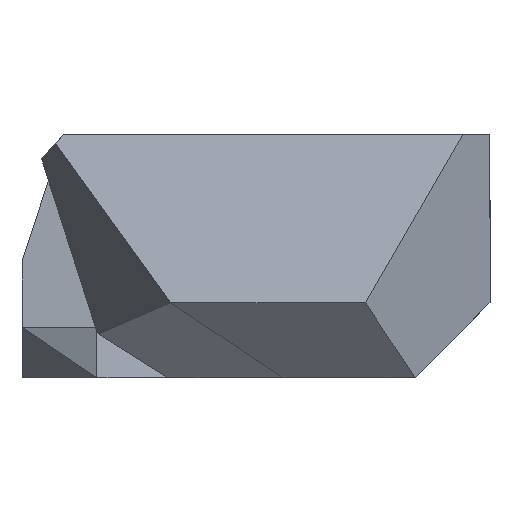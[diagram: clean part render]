
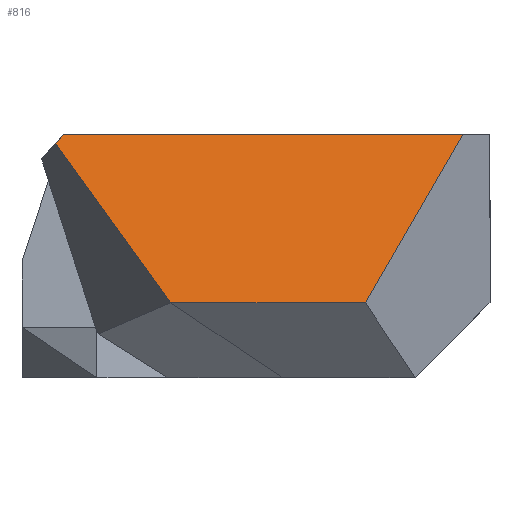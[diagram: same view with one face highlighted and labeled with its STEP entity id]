
A CAD part, left-side view. The second image highlights one B-rep face of the part: STEP entity #816.
In plain terms, the highlighted planar face has unit normal (-0.975, 0, 0.222).
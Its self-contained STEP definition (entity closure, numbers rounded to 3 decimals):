
#6 = LINE ( 'NONE', #989, #854 ) ;
#7 = CARTESIAN_POINT ( 'NONE',  ( -52.909, 14.028, -19.4 ) ) ;
#13 = VERTEX_POINT ( 'NONE', #313 ) ;
#81 = EDGE_LOOP ( 'NONE', ( #937, #1162, #1086, #1235, #1398 ) ) ;
#112 = VERTEX_POINT ( 'NONE', #199 ) ;
#117 = LINE ( 'NONE', #425, #1259 ) ;
#193 = VECTOR ( 'NONE', #1236, 1000. ) ;
#199 = CARTESIAN_POINT ( 'NONE',  ( -52.909, 220.944, -19.4 ) ) ;
#234 = CARTESIAN_POINT ( 'NONE',  ( -72.75, 165.494, -106.7 ) ) ;
#235 = LINE ( 'NONE', #343, #193 ) ;
#302 = EDGE_CURVE ( 'NONE', #493, #13, #117, .T. ) ;
#313 = CARTESIAN_POINT ( 'NONE',  ( -72.75, 64.514, -106.7 ) ) ;
#325 = DIRECTION ( 'NONE',  ( 0., -1., 0. ) ) ;
#343 = CARTESIAN_POINT ( 'NONE',  ( -52.909, 242.5, -19.4 ) ) ;
#344 = PLANE ( 'NONE',  #1435 ) ;
#361 = CARTESIAN_POINT ( 'NONE',  ( -50.034, 209.701, -6.751 ) ) ;
#363 = EDGE_CURVE ( 'NONE', #1238, #13, #6, .T. ) ;
#425 = CARTESIAN_POINT ( 'NONE',  ( -89.627, 107.46, -180.96 ) ) ;
#434 = LINE ( 'NONE', #361, #1292 ) ;
#493 = VERTEX_POINT ( 'NONE', #7 ) ;
#504 = EDGE_CURVE ( 'NONE', #493, #112, #235, .T. ) ;
#579 = DIRECTION ( 'NONE',  ( -0.222, 0., -0.975 ) ) ;
#595 = EDGE_CURVE ( 'NONE', #875, #112, #434, .T. ) ;
#672 = CARTESIAN_POINT ( 'NONE',  ( -72.75, 165.494, -106.7 ) ) ;
#706 = VECTOR ( 'NONE', #1129, 1000. ) ;
#765 = EDGE_CURVE ( 'NONE', #1238, #875, #860, .T. ) ;
#794 = CARTESIAN_POINT ( 'NONE',  ( -72.75, 242.5, -106.7 ) ) ;
#806 = CARTESIAN_POINT ( 'NONE',  ( -53.975, 225.114, -24.091 ) ) ;
#816 = ADVANCED_FACE ( 'NONE', ( #1113 ), #344, .F. ) ;
#854 = VECTOR ( 'NONE', #325, 1000. ) ;
#860 = LINE ( 'NONE', #234, #706 ) ;
#875 = VERTEX_POINT ( 'NONE', #806 ) ;
#937 = ORIENTED_EDGE ( 'NONE', *, *, #363, .T. ) ;
#989 = CARTESIAN_POINT ( 'NONE',  ( -72.75, 242.5, -106.7 ) ) ;
#1086 = ORIENTED_EDGE ( 'NONE', *, *, #504, .T. ) ;
#1113 = FACE_OUTER_BOUND ( 'NONE', #81, .T. ) ;
#1129 = DIRECTION ( 'NONE',  ( 0.181, 0.576, 0.797 ) ) ;
#1145 = DIRECTION ( 'NONE',  ( 0.167, -0.655, 0.737 ) ) ;
#1162 = ORIENTED_EDGE ( 'NONE', *, *, #302, .F. ) ;
#1235 = ORIENTED_EDGE ( 'NONE', *, *, #595, .F. ) ;
#1236 = DIRECTION ( 'NONE',  ( 0., 1., 0. ) ) ;
#1238 = VERTEX_POINT ( 'NONE', #672 ) ;
#1242 = DIRECTION ( 'NONE',  ( 0.975, 0., -0.222 ) ) ;
#1259 = VECTOR ( 'NONE', #1314, 1000. ) ;
#1292 = VECTOR ( 'NONE', #1145, 1000. ) ;
#1314 = DIRECTION ( 'NONE',  ( -0.193, 0.491, -0.849 ) ) ;
#1398 = ORIENTED_EDGE ( 'NONE', *, *, #765, .F. ) ;
#1435 = AXIS2_PLACEMENT_3D ( 'NONE', #794, #1242, #579 ) ;
